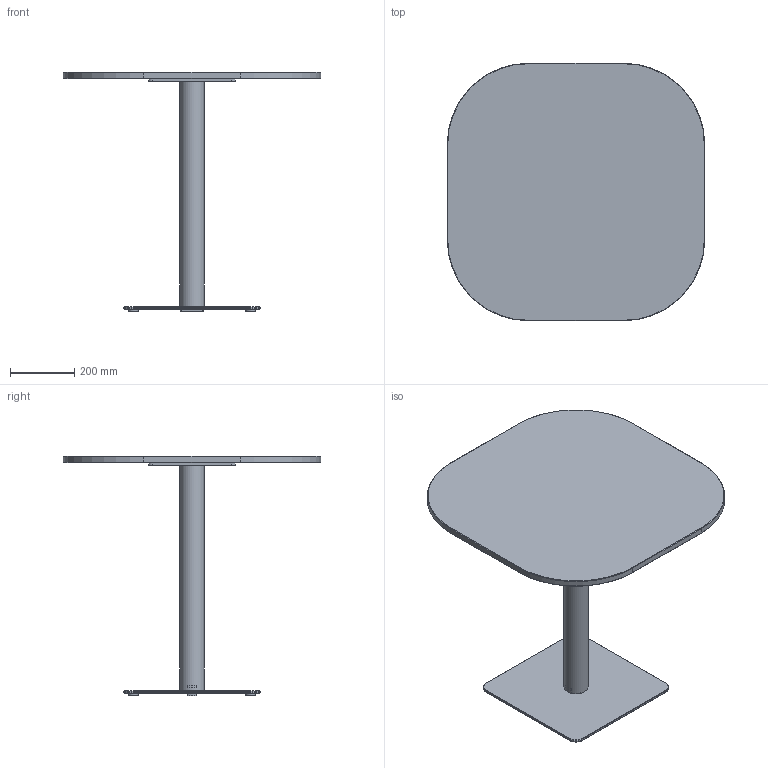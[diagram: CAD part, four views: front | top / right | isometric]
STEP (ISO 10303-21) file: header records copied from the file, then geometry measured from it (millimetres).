
FILE_DESCRIPTION( ('This file contains a STEP AP42 implementation' ,'as created by ZW3D STEP Interface translator.') ,'2;1' );
FILE_NAME( 'Henri - B_Carré - F2 - M1 - 800 x 800 x 750.stp' ,'24 912.163524', (''), ('ZWCAD Software Co.'), 'Version 1.0', 'ZW3D to STEP translator', '' );
FILE_SCHEMA(('AUTOMOTIVE_DESIGN { 1 0 10303 214 1 1 1 1 }'));
Length unit declared in the file: millimetre
Products named in the file (14): 0; PIED BISTROT PARAMETRIQUE_; COLONNE ACIER Ø76 V.02_; TUB-D076-02_; PLA-R76B-01_; CROIX ACIER 370 V.02_; CRX-X370-02_; SOCLE ACIER L 425x425 V.02_; SCL-R425-02_; PLA-R30A-01_; PLA-R30A-01; WUERTH 0276063020 Euro-screw 6.3x2 Verzinkt_; PLATEAU BISTROT PARAMETRIQUE_; insert_m6_13_
Assembly tree (22 placements, depth 3):
  0
  PIED BISTROT PARAMETRIQUE_
    COLONNE ACIER Ø76 V.02_
      TUB-D076-02_
      PLA-R76B-01_  x2
    CROIX ACIER 370 V.02_
      CRX-X370-02_
    SOCLE ACIER L 425x425 V.02_
      SCL-R425-02_
      PLA-R30A-01_
      PLA-R30A-01  x3
    WUERTH 0276063020 Euro-screw 6.3x2 Verzinkt_
    PLATEAU BISTROT PARAMETRIQUE_
      insert_m6_13_  x8
Bounding box: 800 x 800 x 744 mm (x, y, z)
Volume: 14098564.9 mm3; surface area: 2116524.1 mm2
Topology: 19 solids, 19 shells, 537 faces, 1310 edges, 822 vertices
Faces by surface type: plane 262, bspline 121, cylinder 98, cone 55, torus 1
Full cylindrical faces by diameter (mm): 4.88 x1, 6 x8, 6.3 x1, 8 x45, 12 x2, 14 x2, 30 x4, 72 x1, 76 x1
Entity records: 12310 total; most frequent: CARTESIAN_POINT 3396, ORIENTED_EDGE 1624, DIRECTION 1519, EDGE_CURVE 812, VERTEX_POINT 518, VECTOR 513, LINE 513, AXIS2_PLACEMENT_3D 503
